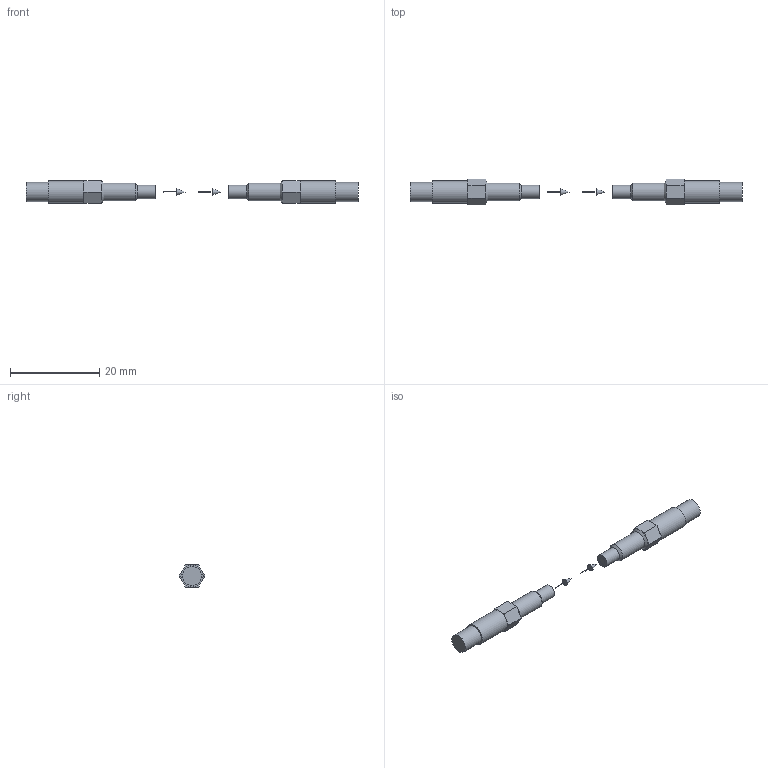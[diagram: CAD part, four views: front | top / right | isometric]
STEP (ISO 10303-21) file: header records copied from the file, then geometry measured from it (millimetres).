
FILE_DESCRIPTION( ( 'Unknown' ), '1' );
FILE_NAME( 'X:/SolidEdge/Models/Dokumentationen/Opto/Lichtleiter/Baumer2014/Vereinfachte Modelle/Neutralformate/FSE xxxB1006.stp', 'Unknown', ( 'Unknown' ), ( 'Unknown' ), 'PSStep 15.0.49', 'Unknown', ' ' );
FILE_SCHEMA( ( 'AUTOMOTIVE_DESIGN { 1 0 10303 214 1 1 1 1 }' ) );
Length unit declared in the file: millimetre
Products named in the file (7): FSE xxxB1006_E; FSE xxxB1006_S; Assem1
Assembly tree (6 placements, depth 3):
  Assem1
    FSE xxxB1006_S
      FSE xxxB1006_S
      FSE xxxB1006_S
    FSE xxxB1006_E
      FSE xxxB1006_E
      FSE xxxB1006_E
Bounding box: 74.6 x 5.77 x 5 mm (x, y, z)
Volume: 893 mm3; surface area: 889 mm2
Topology: 4 solids, 4 shells, 66 faces, 130 edges, 76 vertices
Faces by surface type: plane 48, cylinder 12, cone 6
Full cylindrical faces by diameter (mm): 0.1 x2, 1.6 x2, 3 x2, 4 x2, 4.3 x2, 5 x2
Entity records: 2210 total; most frequent: DIRECTION 306, CARTESIAN_POINT 257, ORIENTED_EDGE 216, AXIS2_PLACEMENT_3D 123, EDGE_CURVE 108, EDGE_LOOP 88, FACE_OUTER_BOUND 78, VERTEX_POINT 74
